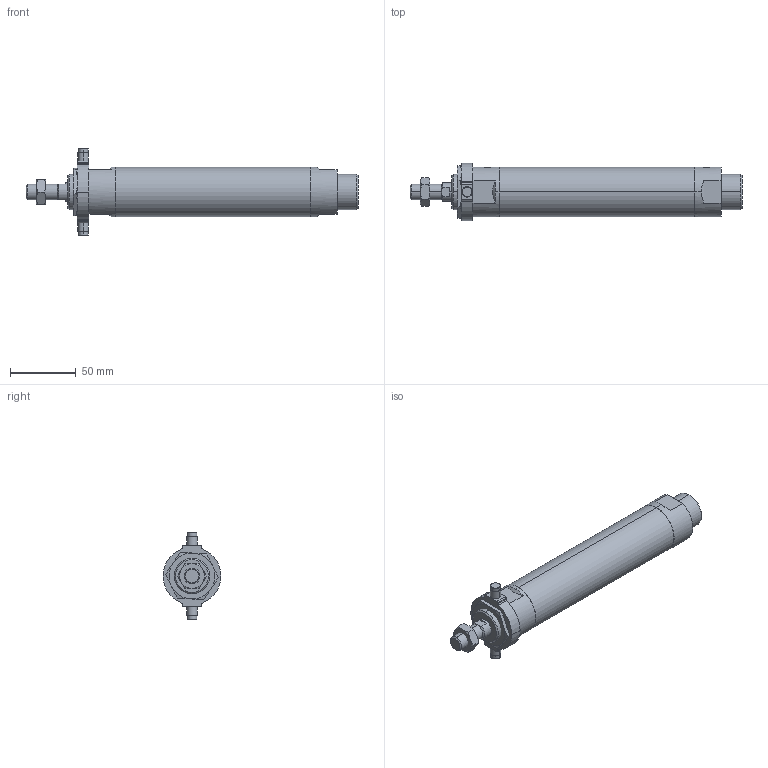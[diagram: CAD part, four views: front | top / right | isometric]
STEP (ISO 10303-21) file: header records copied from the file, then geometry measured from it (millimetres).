
FILE_DESCRIPTION (( 'STEP AP203' ), '1' );
FILE_NAME ('J#2-32-100-T.STEP', '2016-03-08T07:37:45', ( '' ), ( '' ), 'SwSTEP 2.0', 'SolidWorks 2014', '' );
FILE_SCHEMA (( 'CONFIG_CONTROL_DESIGN' ));
Length unit declared in the file: millimetre
Products named in the file (5): J#2-32-T; J#2-32-100-T; J#2-32-100
Assembly tree (4 placements, depth 2):
  J#2-32-100-T
    J#2-32-100
    (unnamed)
    (unnamed)
    J#2-32-T
Bounding box: 253 x 44 x 66 mm (x, y, z)
Volume: 241900.5 mm3; surface area: 37003.2 mm2
Topology: 4 solids, 4 shells, 133 faces, 303 edges, 183 vertices
Faces by surface type: cylinder 43, plane 43, torus 24, cone 23
Entity records: 4649 total; most frequent: CARTESIAN_POINT 1181, DIRECTION 640, ORIENTED_EDGE 598, EDGE_CURVE 299, AXIS2_PLACEMENT_3D 264, VERTEX_POINT 183, EDGE_LOOP 148, FACE_OUTER_BOUND 133
